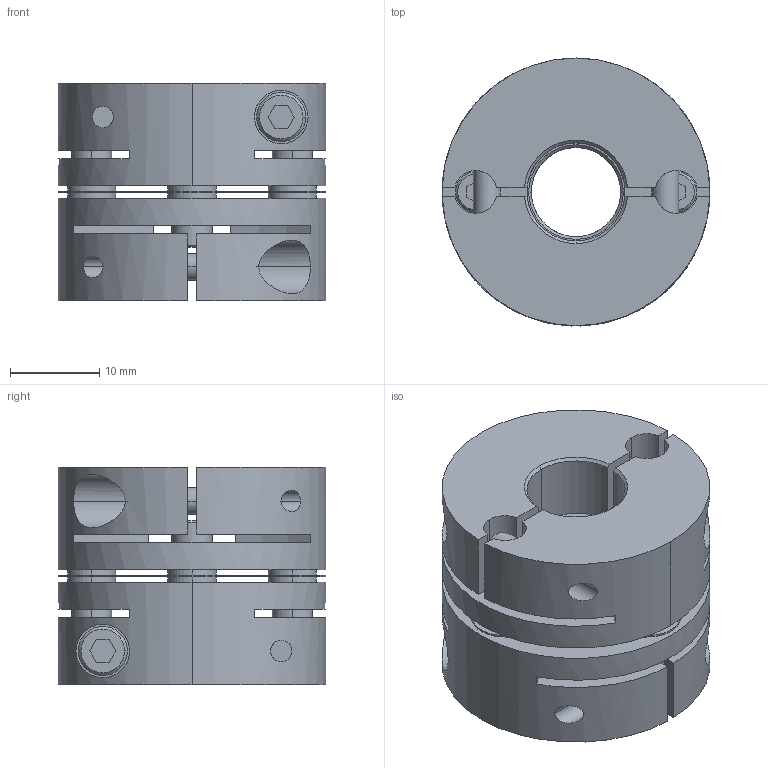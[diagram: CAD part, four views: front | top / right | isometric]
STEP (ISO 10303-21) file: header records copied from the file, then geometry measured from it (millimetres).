
FILE_DESCRIPTION((''),'2;1');
FILE_NAME('LAS-30C-10×11.stp','2011-08-10T13:18:19',(''),(''),'AutoCAD STEP 2000i','AutoCAD 2000i',', , ');
FILE_SCHEMA(('CONFIG_CONTROL_DESIGN'));
Length unit declared in the file: millimetre
Products named in the file (7): LAS-30C-10×10; 忣兜1; LA-3002-D10-1; LA-3002-D10; LA-3002-D06-1; LA-3002-D06; LAS30-ITA
Assembly tree (6 placements, depth 2):
  LAS-30C-10×10
    忣兜1
    LA-3002-D10-1
    LA-3002-D10
    LA-3002-D06-1
    LA-3002-D06
    LAS30-ITA
Bounding box: 30 x 30 x 24.4 mm (x, y, z)
Volume: 12575.7 mm3; surface area: 9097.3 mm2
Topology: 1 solids, 1 shells, 244 faces, 648 edges, 424 vertices
Faces by surface type: plane 112, cylinder 104, cone 28
Entity records: 8527 total; most frequent: CARTESIAN_POINT 2123, DIRECTION 1330, ORIENTED_EDGE 1296, EDGE_CURVE 648, AXIS2_PLACEMENT_3D 487, VERTEX_POINT 424, VECTOR 356, LINE 356
